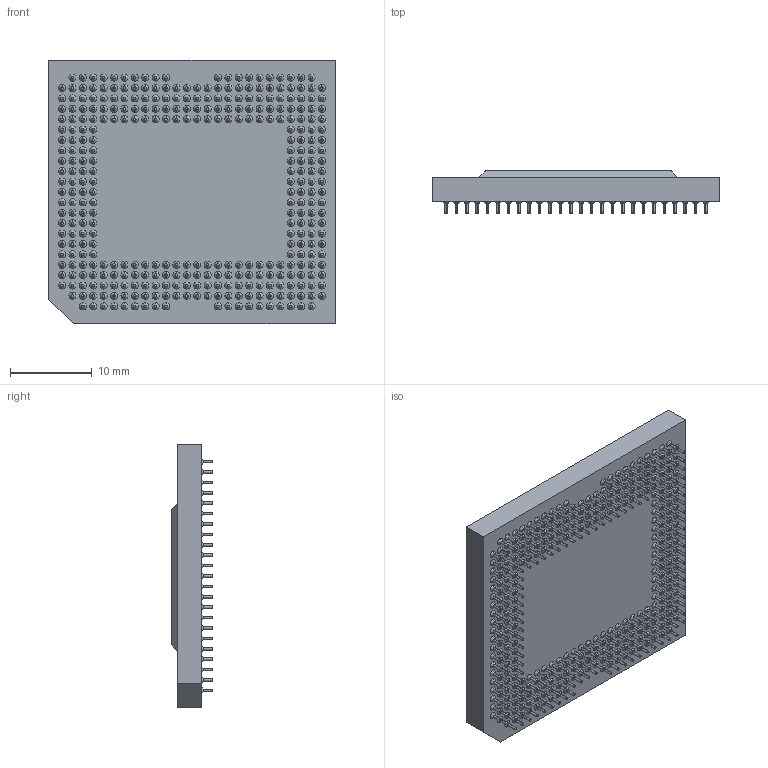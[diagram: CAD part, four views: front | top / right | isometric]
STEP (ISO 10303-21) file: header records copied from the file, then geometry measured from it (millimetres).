
FILE_DESCRIPTION (( 'STEP AP214' ), '1' );
FILE_NAME ('s600-HB-67-WUXGA-DMD.STEP', '2014-04-24T21:08:42', ( '' ), ( '' ), 'SwSTEP 2.0', 'SolidWorks 2013', '' );
FILE_SCHEMA (( 'AUTOMOTIVE_DESIGN' ));
Length unit declared in the file: millimetre
Products named in the file (3): s600-HB-67-WUXGA-Window; s600-HB-67-WUXGA-Ceramic; s600-HB-67-WUXGA-DMD
Assembly tree (2 placements, depth 2):
  s600-HB-67-WUXGA-DMD
    s600-HB-67-WUXGA-Ceramic
    s600-HB-67-WUXGA-Window
Bounding box: 35 x 5.1 x 32.2 mm (x, y, z)
Volume: 3320.4 mm3; surface area: 4335.2 mm2
Topology: 2 solids, 2 shells, 1818 faces, 3657 edges, 2202 vertices
Faces by surface type: cylinder 714, cone 700, plane 404
Entity records: 67029 total; most frequent: DIRECTION 9431, CARTESIAN_POINT 7682, ORIENTED_EDGE 7314, AXIS2_PLACEMENT_3D 3951, EDGE_CURVE 3657, VERTEX_POINT 2202, EDGE_LOOP 2177, CIRCLE 2128
